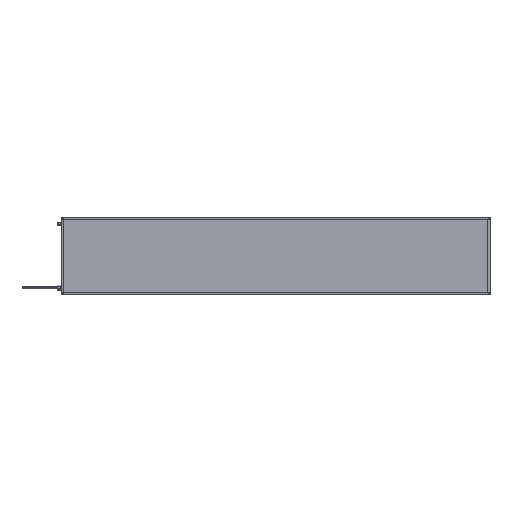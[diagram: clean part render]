
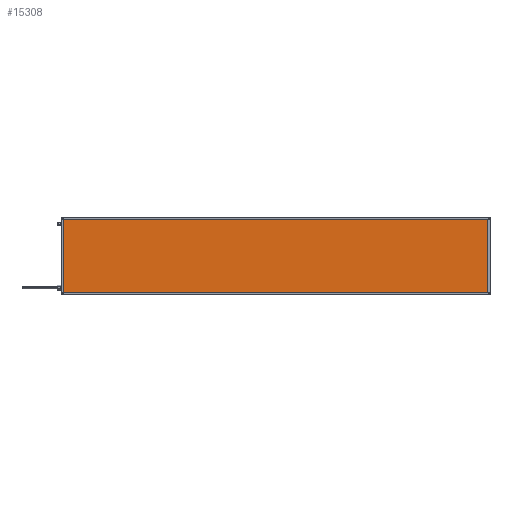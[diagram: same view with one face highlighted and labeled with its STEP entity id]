
A CAD part, top view. The second image highlights one B-rep face of the part: STEP entity #15308.
In plain terms, the highlighted planar face has unit normal (0, 0, 1).
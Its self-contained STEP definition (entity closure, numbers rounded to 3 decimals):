
#511 = VECTOR ( 'NONE', #6698, 1000. ) ;
#921 = ORIENTED_EDGE ( 'NONE', *, *, #3015, .T. ) ;
#1106 = VERTEX_POINT ( 'NONE', #17584 ) ;
#2044 = ORIENTED_EDGE ( 'NONE', *, *, #9361, .T. ) ;
#2883 = DIRECTION ( 'NONE',  ( -1., 0., 0. ) ) ;
#2972 = ORIENTED_EDGE ( 'NONE', *, *, #9401, .T. ) ;
#3015 = EDGE_CURVE ( 'NONE', #6746, #11703, #10316, .T. ) ;
#3110 = VERTEX_POINT ( 'NONE', #9490 ) ;
#3694 = DIRECTION ( 'NONE',  ( -1., 0., 0. ) ) ;
#4847 = CARTESIAN_POINT ( 'NONE',  ( 1696., 0., 41.85 ) ) ;
#5524 = FACE_OUTER_BOUND ( 'NONE', #7174, .T. ) ;
#6345 = VECTOR ( 'NONE', #9072, 1000. ) ;
#6698 = DIRECTION ( 'NONE',  ( 0., -1., 0. ) ) ;
#6746 = VERTEX_POINT ( 'NONE', #17292 ) ;
#7174 = EDGE_LOOP ( 'NONE', ( #921, #2044, #2972, #11976 ) ) ;
#7891 = LINE ( 'NONE', #14733, #14477 ) ;
#8067 = LINE ( 'NONE', #13987, #511 ) ;
#8989 = LINE ( 'NONE', #13182, #6345 ) ;
#9072 = DIRECTION ( 'NONE',  ( 1., 0., 0. ) ) ;
#9361 = EDGE_CURVE ( 'NONE', #11703, #1106, #7891, .T. ) ;
#9401 = EDGE_CURVE ( 'NONE', #1106, #3110, #8067, .T. ) ;
#9490 = CARTESIAN_POINT ( 'NONE',  ( 4., 4., 41.85 ) ) ;
#10316 = LINE ( 'NONE', #4847, #17253 ) ;
#11095 = PLANE ( 'NONE',  #14789 ) ;
#11612 = DIRECTION ( 'NONE',  ( 0., 1., 0. ) ) ;
#11703 = VERTEX_POINT ( 'NONE', #17397 ) ;
#11976 = ORIENTED_EDGE ( 'NONE', *, *, #15432, .T. ) ;
#13182 = CARTESIAN_POINT ( 'NONE',  ( 0., 4., 41.85 ) ) ;
#13921 = CARTESIAN_POINT ( 'NONE',  ( 0., 0., 41.85 ) ) ;
#13987 = CARTESIAN_POINT ( 'NONE',  ( 4., 0., 41.85 ) ) ;
#14477 = VECTOR ( 'NONE', #3694, 1000. ) ;
#14733 = CARTESIAN_POINT ( 'NONE',  ( 0., 296., 41.85 ) ) ;
#14789 = AXIS2_PLACEMENT_3D ( 'NONE', #13921, #15379, #2883 ) ;
#15308 = ADVANCED_FACE ( 'NONE', ( #5524 ), #11095, .F. ) ;
#15379 = DIRECTION ( 'NONE',  ( 0., 0., -1. ) ) ;
#15432 = EDGE_CURVE ( 'NONE', #3110, #6746, #8989, .T. ) ;
#17253 = VECTOR ( 'NONE', #11612, 1000. ) ;
#17292 = CARTESIAN_POINT ( 'NONE',  ( 1696., 4., 41.85 ) ) ;
#17397 = CARTESIAN_POINT ( 'NONE',  ( 1696., 296., 41.85 ) ) ;
#17584 = CARTESIAN_POINT ( 'NONE',  ( 4., 296., 41.85 ) ) ;
